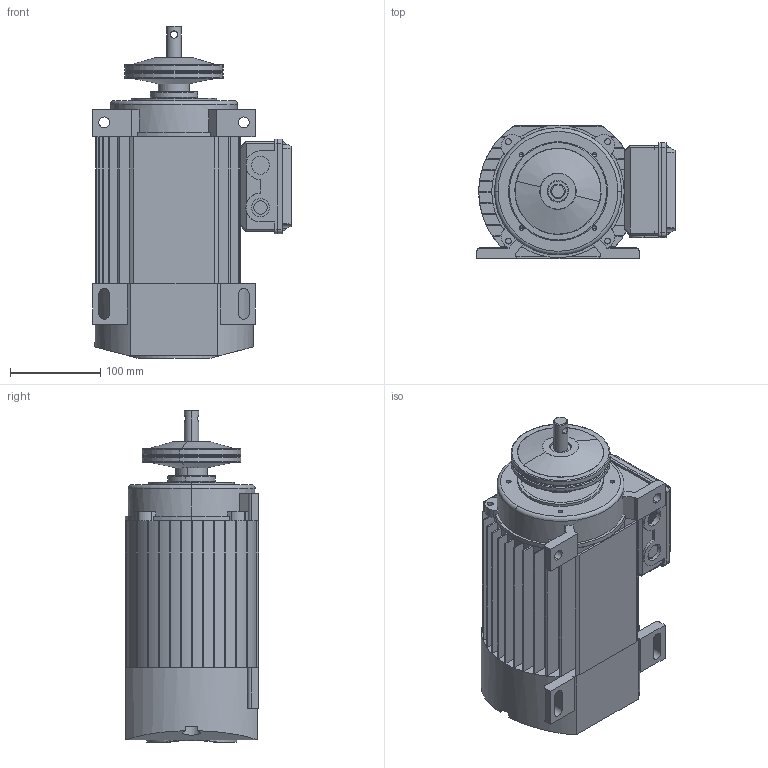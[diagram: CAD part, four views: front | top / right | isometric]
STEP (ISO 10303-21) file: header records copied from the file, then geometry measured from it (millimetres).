
FILE_DESCRIPTION (( 'STEP AP214' ), '1' );
FILE_NAME ('KSD_74A2.STEP', '2013-09-16T13:56:32', ( ' ' ), ( '' ), 'SwSTEP 2.0', 'SolidWorks 2012', '' );
FILE_SCHEMA (( 'AUTOMOTIVE_DESIGN' ));
Length unit declared in the file: millimetre
Products named in the file (7): Klemmenkastendeckel_MS80; Klemmenkastenunterteil_MS80; Klemmenscheibe_D110; B_Lagerschild_74A2; A_Lagerschild_74A2; KSD_74A2_Stator; KSD_74A2
Assembly tree (6 placements, depth 2):
  KSD_74A2
    KSD_74A2_Stator
    A_Lagerschild_74A2
    B_Lagerschild_74A2
    Klemmenscheibe_D110
    Klemmenkastenunterteil_MS80
    Klemmenkastendeckel_MS80
Bounding box: 220 x 148 x 368.5 mm (x, y, z)
Volume: 3124320.6 mm3; surface area: 588313.8 mm2
Topology: 7 solids, 7 shells, 1150 faces, 3096 edges, 2040 vertices
Faces by surface type: plane 702, cylinder 306, bspline 96, cone 28, torus 18
Entity records: 41067 total; most frequent: CARTESIAN_POINT 12159, ORIENTED_EDGE 6156, DIRECTION 5579, EDGE_CURVE 3078, LINE 2161, VECTOR 2161, VERTEX_POINT 2040, AXIS2_PLACEMENT_3D 1709
